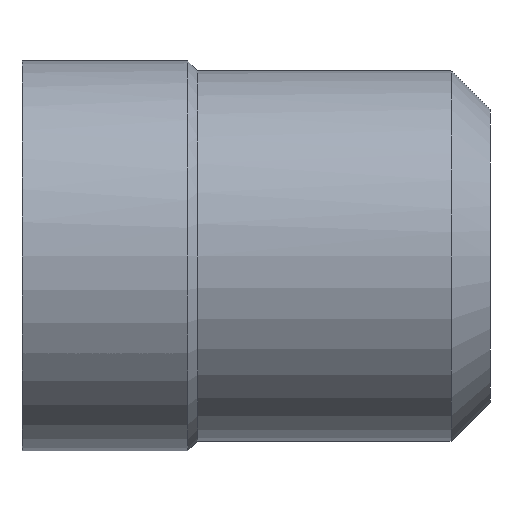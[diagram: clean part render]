
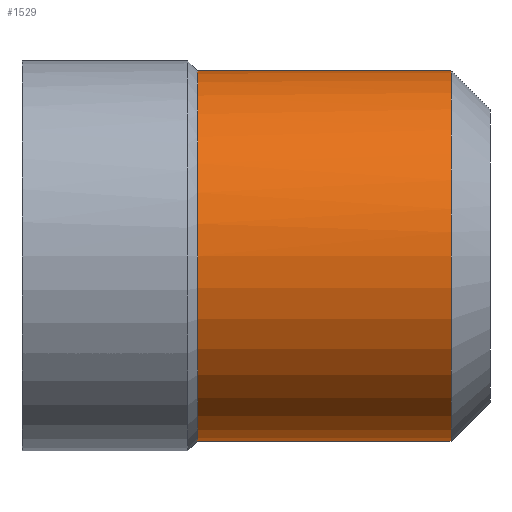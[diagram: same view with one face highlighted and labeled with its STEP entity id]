
A CAD part, front view. The second image highlights one B-rep face of the part: STEP entity #1529.
In plain terms, the highlighted cylindrical face has radius 4.75 mm (diameter 9.5 mm), a partial arc.
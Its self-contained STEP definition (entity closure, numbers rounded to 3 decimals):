
#1361=CARTESIAN_POINT('Vertex',(4.5,0.,4.75)) ;
#1375=CARTESIAN_POINT('Vertex',(4.5,0.,-4.75)) ;
#1397=CARTESIAN_POINT('Axis2P3D Location',(4.5,0.,0.)) ;
#1401=CARTESIAN_POINT('Vertex',(4.5,-4.75,0.)) ;
#1404=CARTESIAN_POINT('Axis2P3D Location',(4.5,0.,0.)) ;
#1463=CARTESIAN_POINT('Line Origine',(4.564,0.,-4.75)) ;
#1467=CARTESIAN_POINT('Vertex',(11.,0.,-4.75)) ;
#1470=CARTESIAN_POINT('Line Origine',(4.564,0.,4.75)) ;
#1474=CARTESIAN_POINT('Vertex',(11.,0.,4.75)) ;
#1501=CARTESIAN_POINT('Axis2P3D Location',(4.564,0.,0.)) ;
#1506=CARTESIAN_POINT('Axis2P3D Location',(11.,0.,0.)) ;
#1510=CARTESIAN_POINT('Vertex',(11.,-4.75,0.)) ;
#1514=CARTESIAN_POINT('Control Point',(11.,0.,4.75)) ;
#1515=CARTESIAN_POINT('Control Point',(11.,-1.492,4.75)) ;
#1516=CARTESIAN_POINT('Control Point',(11.,-2.986,4.166)) ;
#1517=CARTESIAN_POINT('Control Point',(11.,-4.166,2.986)) ;
#1518=CARTESIAN_POINT('Control Point',(11.,-4.75,1.492)) ;
#1519=CARTESIAN_POINT('Control Point',(11.,-4.75,0.)) ;
#1398=DIRECTION('Axis2P3D Direction',(-1.,0.,0.)) ;
#1405=DIRECTION('Axis2P3D Direction',(-1.,0.,0.)) ;
#1464=DIRECTION('Vector Direction',(-1.,0.,0.)) ;
#1471=DIRECTION('Vector Direction',(-1.,0.,0.)) ;
#1502=DIRECTION('Axis2P3D Direction',(-1.,-0.,-0.)) ;
#1503=DIRECTION('Axis2P3D XDirection',(0.,0.,-1.)) ;
#1507=DIRECTION('Axis2P3D Direction',(-1.,-0.,-0.)) ;
#1399=AXIS2_PLACEMENT_3D('Circle Axis2P3D',#1397,#1398,$) ;
#1406=AXIS2_PLACEMENT_3D('Circle Axis2P3D',#1404,#1405,$) ;
#1504=AXIS2_PLACEMENT_3D('Cylinder Axis2P3D',#1501,#1502,#1503) ;
#1508=AXIS2_PLACEMENT_3D('Circle Axis2P3D',#1506,#1507,$) ;
#1522=ORIENTED_EDGE('',*,*,#1476,.T.) ;
#1523=ORIENTED_EDGE('',*,*,#1408,.T.) ;
#1524=ORIENTED_EDGE('',*,*,#1403,.T.) ;
#1525=ORIENTED_EDGE('',*,*,#1469,.T.) ;
#1526=ORIENTED_EDGE('',*,*,#1512,.F.) ;
#1527=ORIENTED_EDGE('',*,*,#1520,.F.) ;
#1465=VECTOR('Line Direction',#1464,1.) ;
#1472=VECTOR('Line Direction',#1471,1.) ;
#1529=ADVANCED_FACE('MA10',(#1528),#1505,.T.) ;
#1513=B_SPLINE_CURVE_WITH_KNOTS('',5,(#1514,#1515,#1516,#1517,#1518,#1519),.UNSPECIFIED.,.F.,.U.,(6,6),(-3.731,3.731),.UNSPECIFIED.) ;
#1400=CIRCLE('generated circle',#1399,4.75) ;
#1407=CIRCLE('generated circle',#1406,4.75) ;
#1509=CIRCLE('generated circle',#1508,4.75) ;
#1505=CYLINDRICAL_SURFACE('generated cylinder',#1504,4.75) ;
#1403=EDGE_CURVE('',#1402,#1376,#1400,.F.) ;
#1408=EDGE_CURVE('',#1362,#1402,#1407,.F.) ;
#1469=EDGE_CURVE('',#1376,#1468,#1466,.F.) ;
#1476=EDGE_CURVE('',#1475,#1362,#1473,.T.) ;
#1512=EDGE_CURVE('',#1511,#1468,#1509,.F.) ;
#1520=EDGE_CURVE('',#1475,#1511,#1513,.T.) ;
#1521=EDGE_LOOP('',(#1522,#1523,#1524,#1525,#1526,#1527)) ;
#1528=FACE_OUTER_BOUND('',#1521,.T.) ;
#1466=LINE('Line',#1463,#1465) ;
#1473=LINE('Line',#1470,#1472) ;
#1362=VERTEX_POINT('',#1361) ;
#1376=VERTEX_POINT('',#1375) ;
#1402=VERTEX_POINT('',#1401) ;
#1468=VERTEX_POINT('',#1467) ;
#1475=VERTEX_POINT('',#1474) ;
#1511=VERTEX_POINT('',#1510) ;
